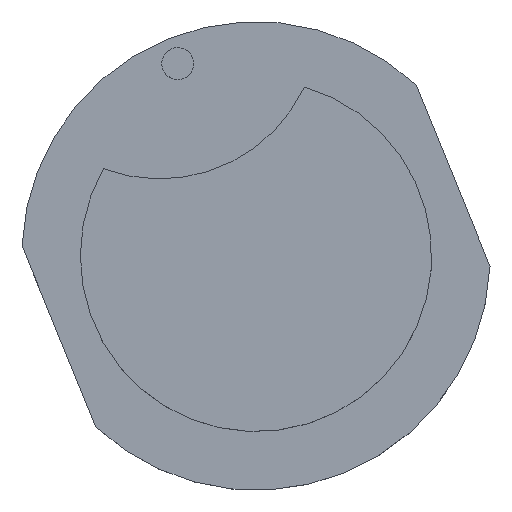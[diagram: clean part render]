
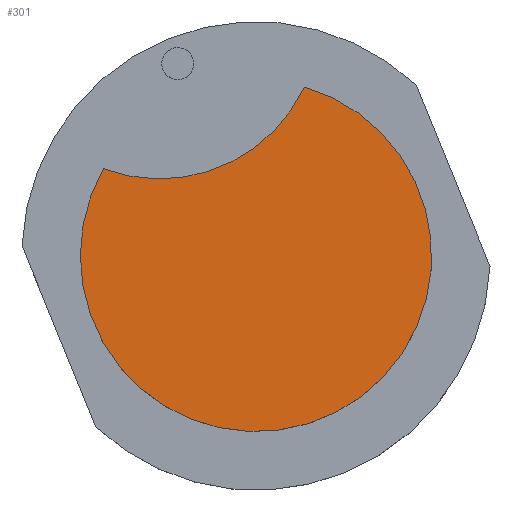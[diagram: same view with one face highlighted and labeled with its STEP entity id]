
A CAD part, top view. The second image highlights one B-rep face of the part: STEP entity #301.
In plain terms, the highlighted planar face has unit normal (0, 0, 1).
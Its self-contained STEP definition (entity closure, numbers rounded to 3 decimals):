
#247=CARTESIAN_POINT('',(24.177,8.191,38.));
#248=VERTEX_POINT('',#247);
#249=CARTESIAN_POINT('',(43.038,15.864,38.));
#250=VERTEX_POINT('',#249);
#251=CARTESIAN_POINT('',(29.456,22.231,38.));
#252=DIRECTION('',(-0.352,-0.936,0.));
#253=DIRECTION('',(0.,0.,1.));
#254=AXIS2_PLACEMENT_3D('',#251,#253,#252);
#255=CIRCLE('',#254,15.);
#256=EDGE_CURVE('',#248,#250,#255,.T.);
#279=CARTESIAN_POINT('',(38.5,0.,38.));
#280=DIRECTION('',(0.275,0.961,0.));
#281=DIRECTION('',(0.,0.,-1.));
#282=AXIS2_PLACEMENT_3D('',#279,#281,#280);
#283=CIRCLE('',#282,16.5);
#284=EDGE_CURVE('',#250,#248,#283,.T.);
#292=CARTESIAN_POINT('',(43.684,-12.742,38.));
#293=DIRECTION('',(-0.377,0.926,0.));
#294=DIRECTION('',(0.,0.,1.));
#295=AXIS2_PLACEMENT_3D('',#292,#294,#293);
#296=PLANE('',#295);
#297=ORIENTED_EDGE('',*,*,#256,.F.);
#298=ORIENTED_EDGE('',*,*,#284,.F.);
#299=EDGE_LOOP('',(#297,#298));
#300=FACE_OUTER_BOUND('',#299,.T.);
#301=ADVANCED_FACE('F9',(#300),#296,.T.);
